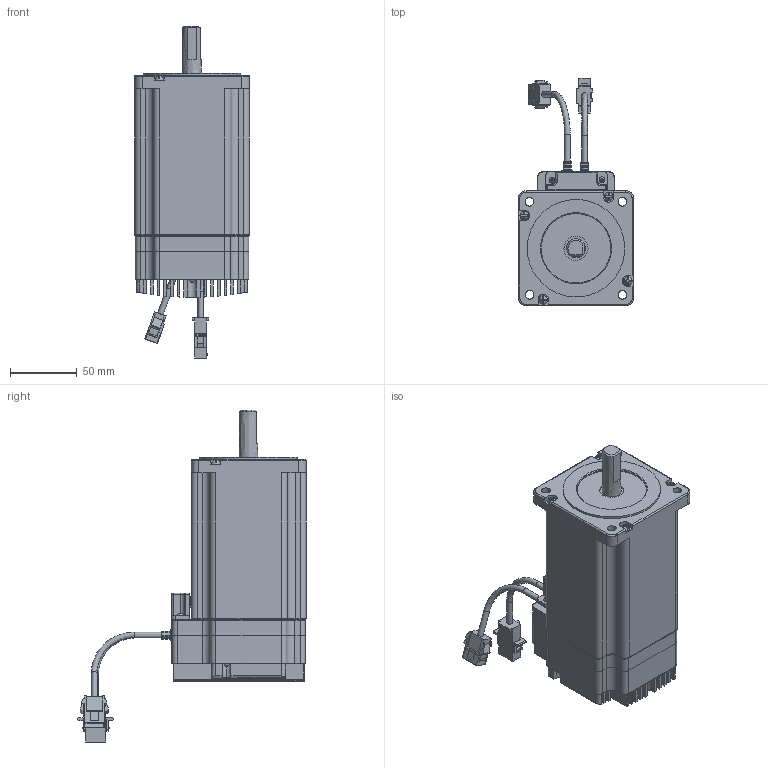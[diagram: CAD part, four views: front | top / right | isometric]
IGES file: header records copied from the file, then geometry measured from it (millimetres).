
Global section: file name: C:\DOCUME~1\PC001\BM-86M-assembly.igs; preprocessor: I-DEAS 3D IGES Translator 12; date: 20100125.211537; units: millimetre
Bounding box: 86 x 170.75 x 248.5 mm (x, y, z)
Volume: 923817.3 mm3; surface area: 153542.7 mm2
Topology: 11 solids, 11 shells, 984 faces, 2679 edges, 1864 vertices
Faces by surface type: bspline 984
